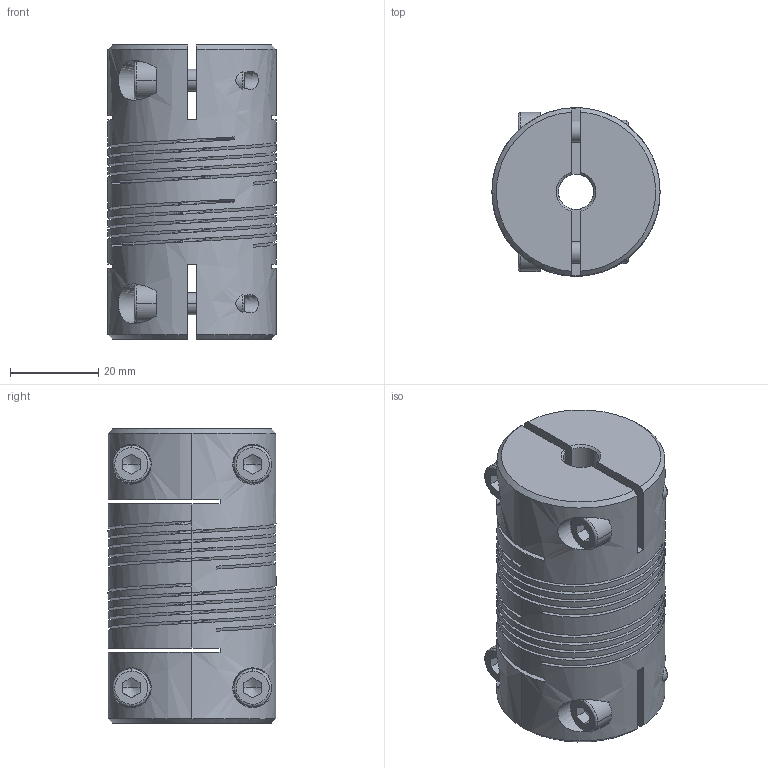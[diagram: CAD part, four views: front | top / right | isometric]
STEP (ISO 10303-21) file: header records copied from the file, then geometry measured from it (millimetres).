
FILE_DESCRIPTION((''),'2;1');
FILE_NAME('723_38','2026-02-24T',('SYSTEM'),(''),'PRO/ENGINEER BY PARAMETRIC TECHNOLOGY CORPORATION, 2016360','PRO/ENGINEER BY PARAMETRIC TECHNOLOGY CORPORATION, 2016360','');
FILE_SCHEMA(('AUTOMOTIVE_DESIGN { 1 0 10303 214 1 1 1 1 }'));
Length unit declared in the file: inch
Products named in the file (1): 723_38
Bounding box: 38.1 x 38.09 x 66.65 mm (x, y, z)
Volume: 58779 mm3; surface area: 37049.8 mm2
Topology: 1 solids, 1 shells, 212 faces, 617 edges, 405 vertices
Faces by surface type: bspline 212
Entity records: 16406 total; most frequent: CARTESIAN_POINT 10785, ORIENTED_EDGE 1218, EDGE_CURVE 609, B_SPLINE_CURVE_WITH_KNOTS 444, VERTEX_POINT 405, EDGE_LOOP 240, FACE_OUTER_BOUND 212, FILL_AREA_STYLE_COLOUR 212
